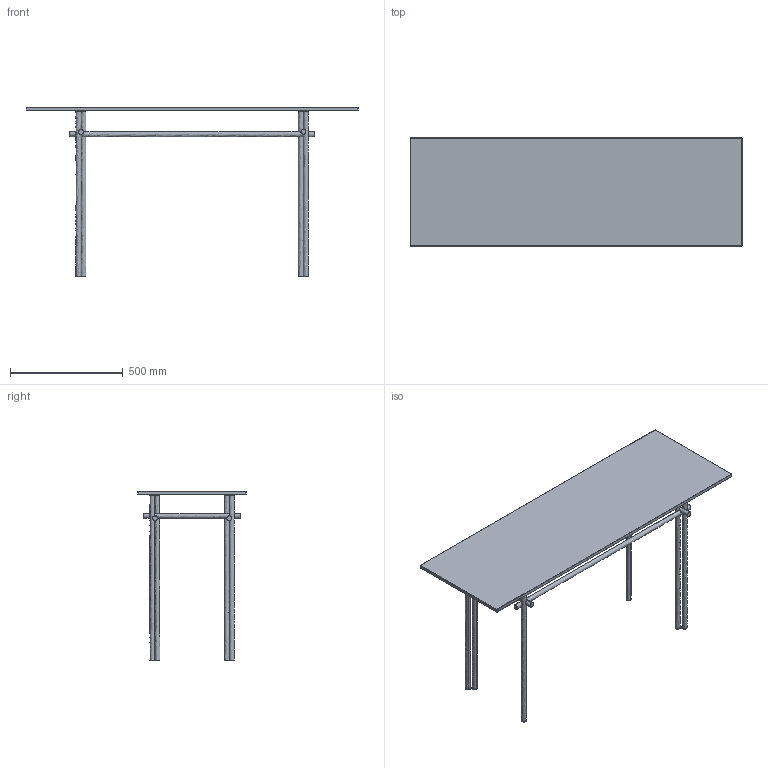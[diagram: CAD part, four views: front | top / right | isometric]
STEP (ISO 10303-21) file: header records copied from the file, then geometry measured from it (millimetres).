
FILE_DESCRIPTION(/* description */ (''),/* implementation_level */ '2;1');
FILE_NAME(/* name */ 'consolle-Wanders',/* time_stamp */ '2023-03-13T18:40:19+01:00',/* author */ (''),/* organization */ (''),/* preprocessor_version */ 'ST-DEVELOPER v16.5',/* originating_system */ '',/* authorisation */ '');
FILE_SCHEMA (('AUTOMOTIVE_DESIGN'));
Length unit declared in the file: millimetre
Products named in the file (1): Document
Bounding box: 1470 x 480 x 751.03 mm (x, y, z)
Volume: 12816228.2 mm3; surface area: 2103425.2 mm2
Topology: 17 solids, 21 shells, 354 faces, 4033 edges, 3713 vertices
Faces by surface type: bspline 296, plane 58
Entity records: 83710 total; most frequent: CARTESIAN_POINT 72886, B_SPLINE_CURVE_WITH_KNOTS 3418, PRESENTATION_LAYER_ASSIGNMENT 3318, ORIENTED_EDGE 1444, EDGE_CURVE 732, VERTEX_POINT 416, EDGE_LOOP 358, ADVANCED_FACE 354
